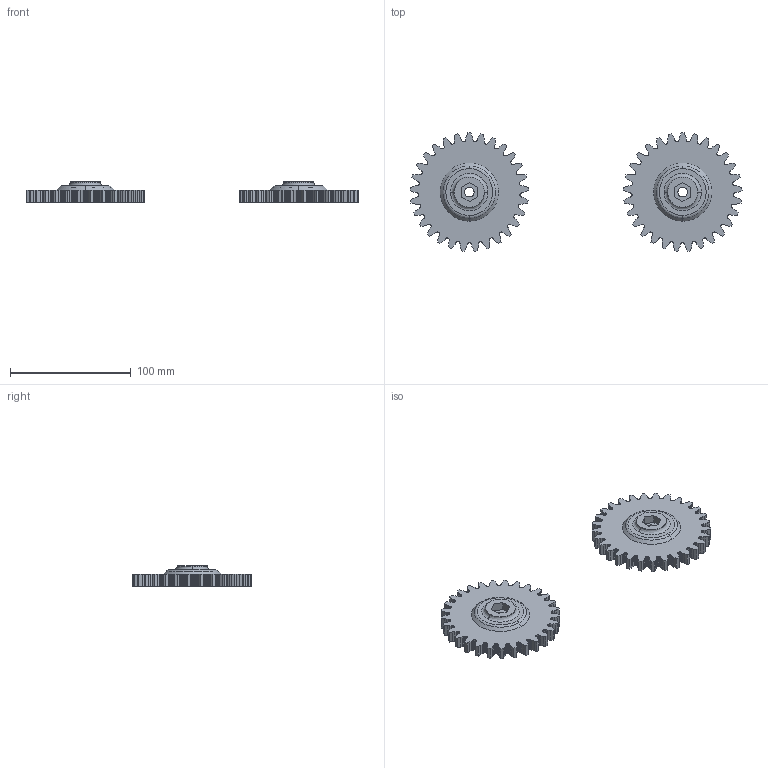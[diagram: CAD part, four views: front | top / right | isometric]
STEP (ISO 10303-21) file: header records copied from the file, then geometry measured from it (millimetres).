
FILE_DESCRIPTION(/* description */ (''),/* implementation_level */ '2;1');
FILE_NAME(/* name */ '240803-DIYUTM-BigGears',/* time_stamp */ '2024-08-03T10:05:41+02:00',/* author */ (''),/* organization */ (''),/* preprocessor_version */ 'ST-DEVELOPER v16.5',/* originating_system */ 'Rhino 7.37',/* authorisation */ '');
FILE_SCHEMA (('CONFIG_CONTROL_DESIGN'));
Length unit declared in the file: millimetre
Products named in the file (1): Document
Bounding box: 275.41 x 98.23 x 16.75 mm (x, y, z)
Volume: 142738.6 mm3; surface area: 39253 mm2
Topology: 2 solids, 2 shells, 1668 faces, 4966 edges, 3308 vertices
Faces by surface type: plane 1636, bspline 24, cylinder 8
Entity records: 48680 total; most frequent: CARTESIAN_POINT 15494, ORIENTED_EDGE 9932, EDGE_CURVE 4966, B_SPLINE_CURVE_WITH_KNOTS 4918, VERTEX_POINT 3308, EDGE_LOOP 1678, ADVANCED_FACE 1668, FACE_OUTER_BOUND 1668
